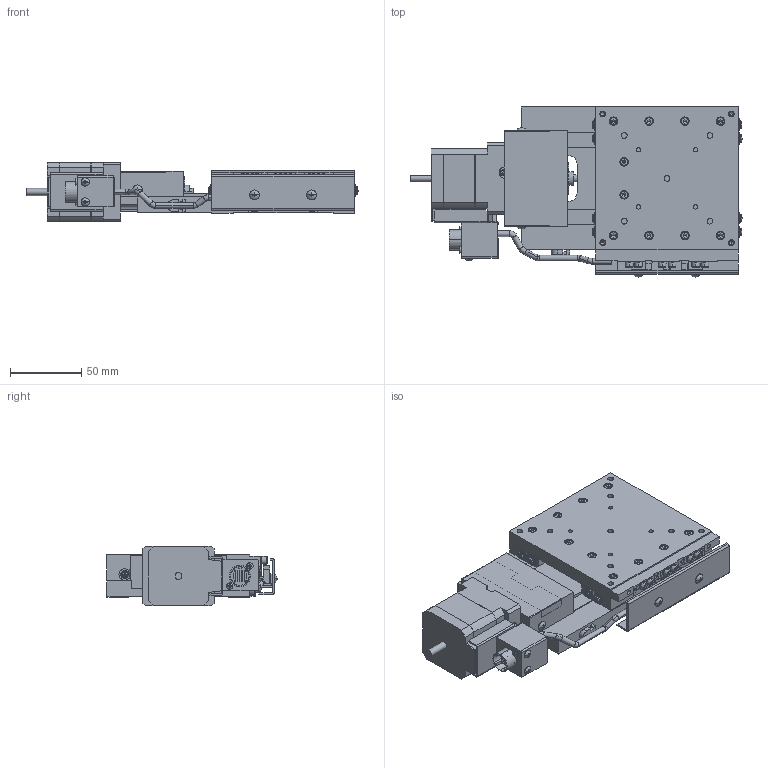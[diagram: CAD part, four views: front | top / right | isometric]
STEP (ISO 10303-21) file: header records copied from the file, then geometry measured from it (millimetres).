
FILE_DESCRIPTION (( 'STEP AP203' ), '1' );
FILE_NAME ('XA10A-R102.STEP', '2019-03-06T07:07:17', ( '' ), ( '' ), 'SwSTEP 2.0', 'SolidWorks 2018', '' );
FILE_SCHEMA (( 'CONFIG_CONTROL_DESIGN' ));
Length unit declared in the file: millimetre
Products named in the file (3): base; table; XA10A-R102
Assembly tree (2 placements, depth 2):
  XA10A-R102
    table
    base
Bounding box: 232.48 x 119.09 x 42 mm (x, y, z)
Volume: 470293.1 mm3; surface area: 127125 mm2
Topology: 2 solids, 2 shells, 2037 faces, 5063 edges, 3103 vertices
Faces by surface type: plane 1226, cylinder 481, cone 260, sphere 36, torus 34
Entity records: 60703 total; most frequent: CARTESIAN_POINT 10931, DIRECTION 10792, ORIENTED_EDGE 9966, EDGE_CURVE 4983, AXIS2_PLACEMENT_3D 3840, VECTOR 3112, LINE 3112, VERTEX_POINT 3103
